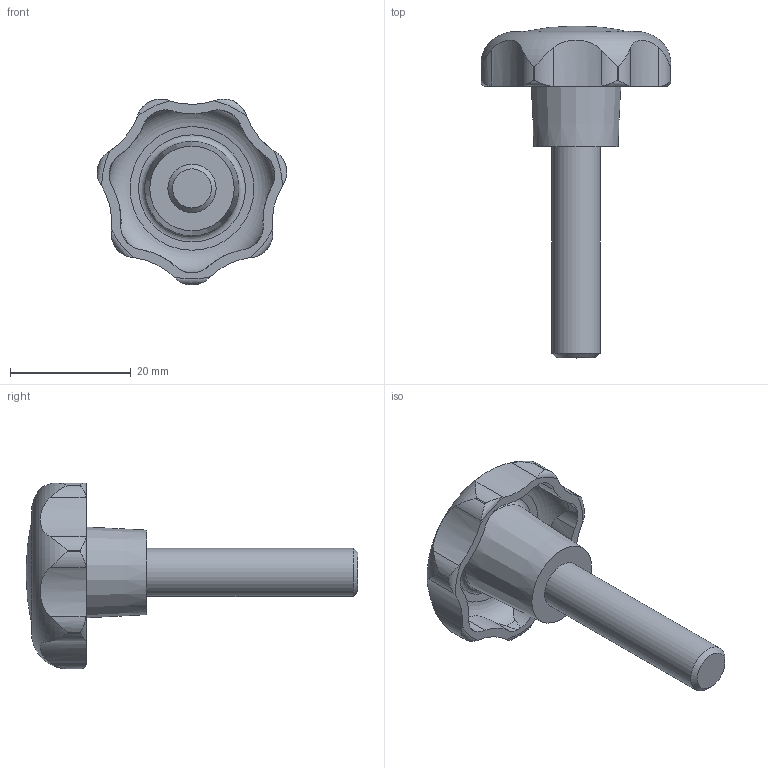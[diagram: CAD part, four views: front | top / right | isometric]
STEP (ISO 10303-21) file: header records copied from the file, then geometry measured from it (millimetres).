
FILE_DESCRIPTION( ( 'STEP AP203' ), '1' );
FILE_NAME( 'C:/Temp/Ganter_Step_05_03_2020/data/2_2/gn_6336_4/gn_6336_4_st/Star knob GN 6336.4-ST-32-M8-35.stp', '2020-03-05T12:07:25', ( 'License CC BY-ND 4.0' ), ( 'CADENAS' ), ' ', 'PARTsolutions', ' ' );
FILE_SCHEMA( ( 'CONFIG_CONTROL_DESIGN' ) );
Length unit declared in the file: millimetre
Products named in the file (1): _Star knob GN 6336.4-ST-32-M8-35
Bounding box: 31.4 x 55 x 30.81 mm (x, y, z)
Volume: 7557.5 mm3; surface area: 4051 mm2
Topology: 1 solids, 1 shells, 74 faces, 209 edges, 138 vertices
Faces by surface type: cylinder 50, torus 10, cone 10, plane 3, sphere 1
Full cylindrical faces by diameter (mm): 8 x1
Entity records: 3221 total; most frequent: CARTESIAN_POINT 1406, ORIENTED_EDGE 394, DIRECTION 336, EDGE_CURVE 197, AXIS2_PLACEMENT_3D 147, VERTEX_POINT 136, EDGE_LOOP 83, B_SPLINE_CURVE_WITH_KNOTS 83
